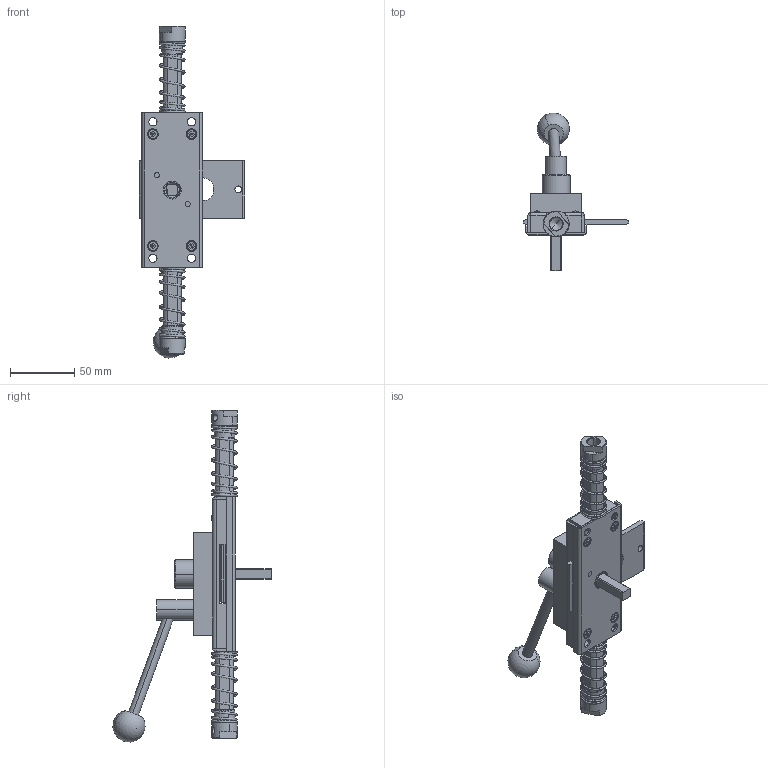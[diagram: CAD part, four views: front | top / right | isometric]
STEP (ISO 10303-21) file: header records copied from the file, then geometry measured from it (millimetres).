
FILE_DESCRIPTION (( 'STEP AP214' ), '1' );
FILE_NAME ('1B.ZWP10.002.P - zamek wewnetrzny panik ZWP.002 prawy.STEP', '2016-09-07T09:56:04', ( '' ), ( '' ), 'SwSTEP 2.0', 'SolidWorks 2015', '' );
FILE_SCHEMA (( 'AUTOMOTIVE_DESIGN' ));
Length unit declared in the file: millimetre
Products named in the file (36): 1B.ZW.006_A; MZP.001.02_A; 1B.ZW.005_B.P; MZP.001.01_A; 1B.ZW.005.04_A; M6 x 6 (IMBUS); 1B.ZW.005.03_B; 5.SP.001_A; 1B.ZW.005.02_A; M4_M4 x 8; 1B.ZW.005.01_A; 1B.SAP.000.00.03_1B.SAP.000.00.03.D10; 1B.ZW.004_A; 1B.ZW.003_A; 1B.ZW.001_A; 1B.ZW.013_B; 1B.ZW.002_C; 1B.ZW.014_K.02; 1B.ZW.015_A; 1B.ZWP10.002.P - zamek wewnetrzny panik ZWP.002 prawy; 1B.ZW.016_A; 1B.ZW.011.02_K.01; 1B.ZW.011_A; M4_M4 x 20; 1B.ZW.011.03_A; MZP.001_A; 1B.ZW.011.01_A; MZP.001.07_A; 1B.ZW.010_A; MZP.001.06_A; 1B.ZW.009_A; MZP.001.05_A; 1B.ZW.008_A; MZP.001.04_A; 1B.ZW.007_A; MZP.001.03_A
Assembly tree (44 placements, depth 3):
  1B.ZWP10.002.P - zamek wewnetrzny panik ZWP.002 prawy
    1B.ZW.002_C
    1B.ZW.001_A
    1B.ZW.004_A  x2
    1B.ZW.005_B.P  x2
      1B.ZW.005.01_A
      1B.ZW.005.02_A
      1B.ZW.005.03_B
      1B.ZW.005.04_A
    1B.ZW.006_A
    1B.ZW.007_A
    1B.ZW.008_A
    1B.ZW.009_A
    1B.ZW.010_A
    1B.ZW.011_A
      1B.ZW.011.01_A
      1B.ZW.011.03_A
    1B.ZW.011.02_K.01
    1B.ZW.016_A
    1B.ZW.015_A
    1B.ZW.014_K.02
    1B.ZW.013_B
    1B.ZW.003_A  x2
    1B.SAP.000.00.03_1B.SAP.000.00.03.D10  x2
    M4_M4 x 8  x4
    5.SP.001_A  x2
    M6 x 6 (IMBUS)
    MZP.001_A
      MZP.001.01_A
      MZP.001.02_A
      MZP.001.03_A
      MZP.001.04_A
      MZP.001.05_A
      MZP.001.06_A
      MZP.001.07_A
    M4_M4 x 20  x2
Bounding box: 82 x 122.91 x 258.04 mm (x, y, z)
Volume: 147157.8 mm3; surface area: 107900.6 mm2
Topology: 45 solids, 45 shells, 1401 faces, 3512 edges, 2221 vertices
Faces by surface type: cylinder 614, plane 543, cone 192, torus 32, bspline 18, sphere 2
Entity records: 48588 total; most frequent: CARTESIAN_POINT 18531, DIRECTION 6323, ORIENTED_EDGE 5714, EDGE_CURVE 2857, AXIS2_PLACEMENT_3D 2410, VERTEX_POINT 1834, VECTOR 1503, LINE 1503
